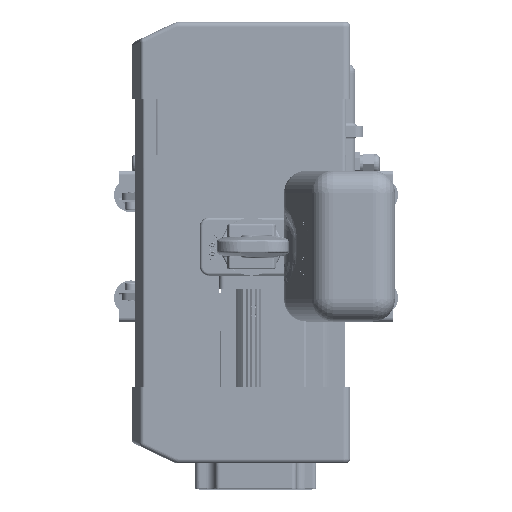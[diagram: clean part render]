
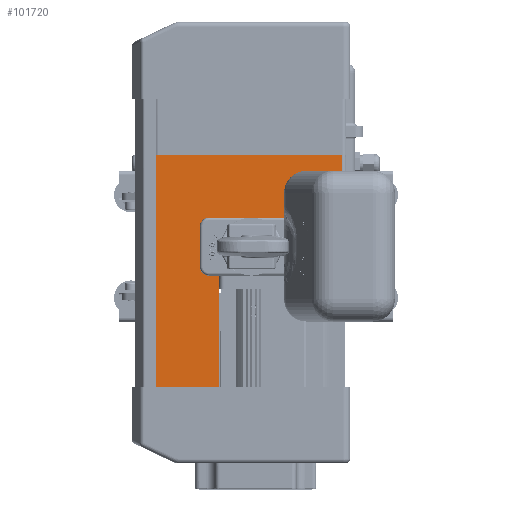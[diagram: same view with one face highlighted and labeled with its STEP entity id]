
A CAD part, front view. The second image highlights one B-rep face of the part: STEP entity #101720.
In plain terms, the highlighted planar face has unit normal (0, -1, 0).
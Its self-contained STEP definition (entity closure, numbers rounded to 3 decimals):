
#3285=LINE('',#175034,#10819);
#3315=LINE('',#175115,#10849);
#3316=LINE('',#175117,#10850);
#3317=LINE('',#175118,#10851);
#3318=LINE('',#175120,#10852);
#3319=LINE('',#175122,#10853);
#10819=VECTOR('',#139388,1000.);
#10849=VECTOR('',#139424,1000.);
#10850=VECTOR('',#139425,1000.);
#10851=VECTOR('',#139426,1000.);
#10852=VECTOR('',#139427,1000.);
#10853=VECTOR('',#139428,1000.);
#18194=PLANE('',#127395);
#27845=ORIENTED_EDGE('',*,*,#57281,.T.);
#27846=ORIENTED_EDGE('',*,*,#57282,.T.);
#27847=ORIENTED_EDGE('',*,*,#57283,.F.);
#27848=ORIENTED_EDGE('',*,*,#57248,.T.);
#27849=ORIENTED_EDGE('',*,*,#57284,.T.);
#27850=ORIENTED_EDGE('',*,*,#57285,.T.);
#27851=ORIENTED_EDGE('',*,*,#57286,.T.);
#27852=ORIENTED_EDGE('',*,*,#57287,.T.);
#57248=EDGE_CURVE('',#72090,#72089,#3285,.T.);
#57281=EDGE_CURVE('',#72120,#72121,#80954,.T.);
#57282=EDGE_CURVE('',#72121,#72122,#3315,.T.);
#57283=EDGE_CURVE('',#72090,#72122,#3316,.F.);
#57284=EDGE_CURVE('',#72089,#72123,#3317,.T.);
#57285=EDGE_CURVE('',#72123,#72124,#3318,.T.);
#57286=EDGE_CURVE('',#72124,#72125,#3319,.T.);
#57287=EDGE_CURVE('',#72125,#72120,#80955,.T.);
#72089=VERTEX_POINT('',#175033);
#72090=VERTEX_POINT('',#175035);
#72120=VERTEX_POINT('',#175113);
#72121=VERTEX_POINT('',#175114);
#72122=VERTEX_POINT('',#175116);
#72123=VERTEX_POINT('',#175119);
#72124=VERTEX_POINT('',#175121);
#72125=VERTEX_POINT('',#175123);
#80954=B_SPLINE_CURVE_WITH_KNOTS('',3,(#175109,#175110,#175111,#175112),
 .UNSPECIFIED.,.F.,.F.,(4,4),(0.,0.986),.UNSPECIFIED.);
#80955=B_SPLINE_CURVE_WITH_KNOTS('',3,(#175124,#175125,#175126,#175127),
 .UNSPECIFIED.,.F.,.F.,(4,4),(0.356,1.),.UNSPECIFIED.);
#84764=EDGE_LOOP('',(#27845,#27846,#27847,#27848,#27849,#27850,#27851,#27852));
#92345=FACE_BOUND('',#84764,.T.);
#101720=ADVANCED_FACE('',(#92345),#18194,.T.);
#127395=AXIS2_PLACEMENT_3D('',#175108,#139422,#139423);
#139388=DIRECTION('',(0.,0.,-1.));
#139422=DIRECTION('',(0.,-1.,0.));
#139423=DIRECTION('',(1.,0.,0.));
#139424=DIRECTION('',(0.,0.,1.));
#139425=DIRECTION('',(-1.,0.,0.));
#139426=DIRECTION('',(1.,0.,0.));
#139427=DIRECTION('',(0.,0.,1.));
#139428=DIRECTION('',(1.,0.,0.));
#175033=CARTESIAN_POINT('',(-139.392,-738.742,123.427));
#175034=CARTESIAN_POINT('',(-139.392,-738.742,359.427));
#175035=CARTESIAN_POINT('',(-139.392,-738.742,378.927));
#175108=CARTESIAN_POINT('',(63.,-738.742,227.427));
#175109=CARTESIAN_POINT('',(65.,-738.742,245.927));
#175110=CARTESIAN_POINT('',(65.,-738.742,280.927));
#175111=CARTESIAN_POINT('',(65.,-738.742,315.927));
#175112=CARTESIAN_POINT('',(65.,-738.742,350.927));
#175113=CARTESIAN_POINT('',(65.,-738.742,245.927));
#175114=CARTESIAN_POINT('',(65.,-738.742,350.927));
#175115=CARTESIAN_POINT('',(65.,-738.742,227.427));
#175116=CARTESIAN_POINT('',(65.,-738.742,378.927));
#175117=CARTESIAN_POINT('',(-137.,-738.742,378.927));
#175118=CARTESIAN_POINT('',(63.,-738.742,123.427));
#175119=CARTESIAN_POINT('',(-70.,-738.742,123.427));
#175120=CARTESIAN_POINT('',(-70.,-738.742,227.427));
#175121=CARTESIAN_POINT('',(-70.,-738.742,245.927));
#175122=CARTESIAN_POINT('',(63.,-738.742,245.927));
#175123=CARTESIAN_POINT('',(-65.001,-738.742,245.927));
#175124=CARTESIAN_POINT('',(-65.001,-738.742,245.927));
#175125=CARTESIAN_POINT('',(-21.667,-738.742,245.927));
#175126=CARTESIAN_POINT('',(21.666,-738.742,245.927));
#175127=CARTESIAN_POINT('',(65.,-738.742,245.927));
